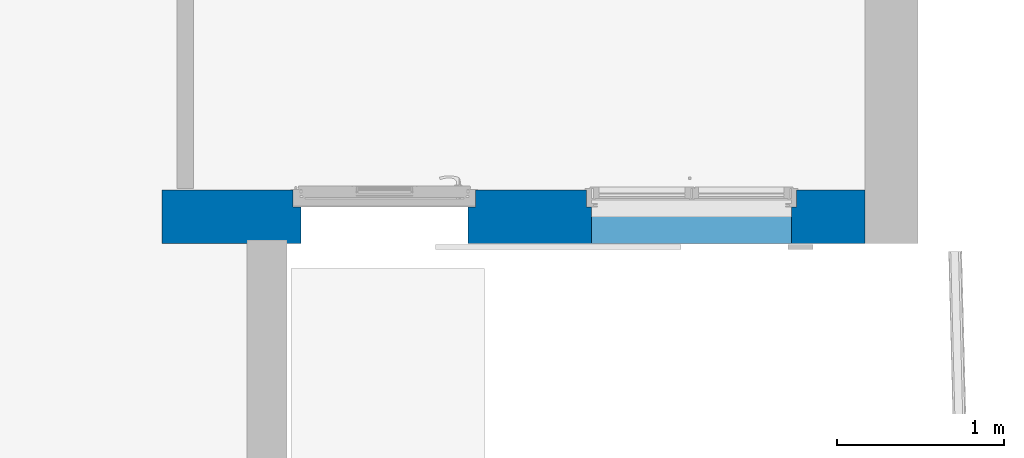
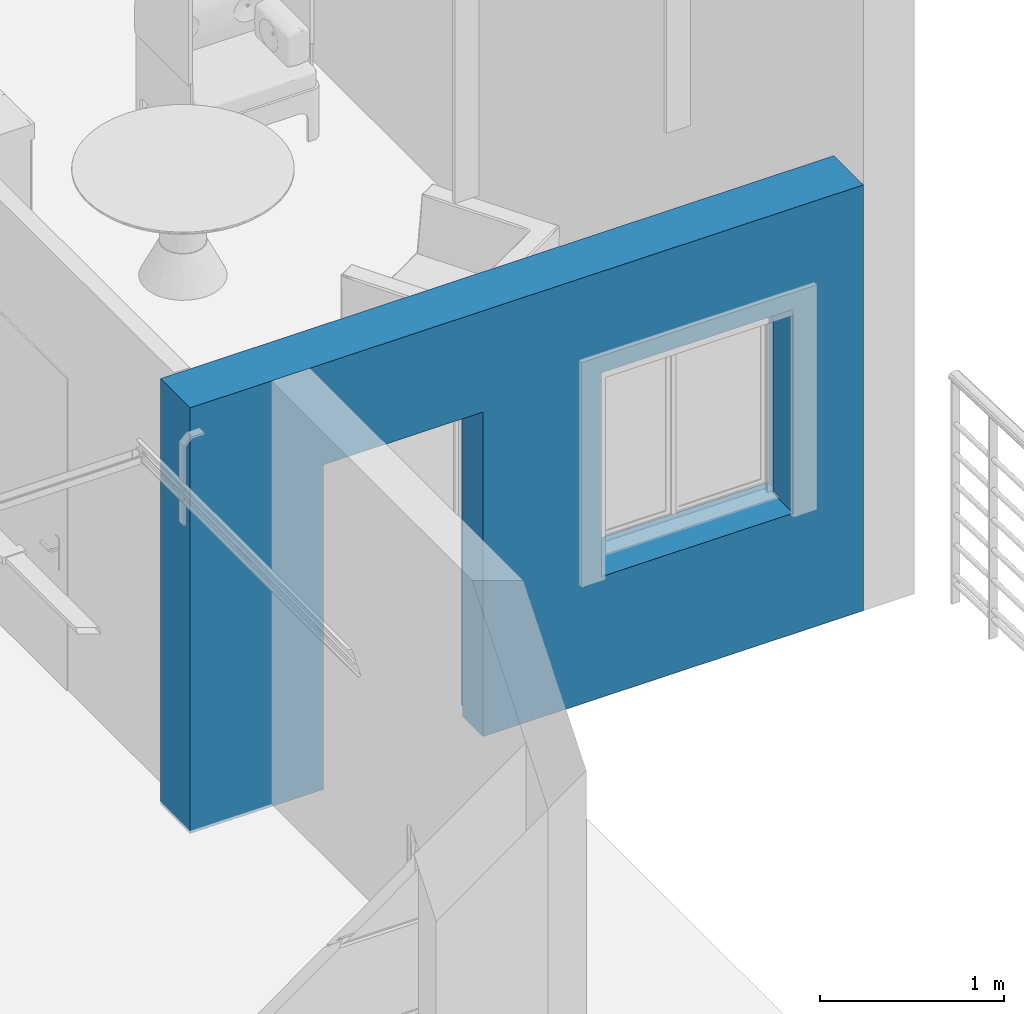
# One storey, part 20 of 30: 1 wall, 2 openings.
"""IFC2X3 building model written with IfcOpenShell, lengths in metres."""

from ifc_helpers import new_model, entity, si_unit, converted_unit, derived_unit, direction, frame, frame_2d, origin, place, context, subcontext, project, spatial, rectangle, extrude, faceted_brep, material, layer, layer_set, layer_usage, type_object, element, save


model = new_model("IFC2X3")

# Units and contexts
model_context = context("Model", 3, precision=1e-05, world=origin(), true_north=direction((6.12303176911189e-17, 1.0)))
body_context = subcontext(model_context, "Body", "Model", "MODEL_VIEW")
ifc_project = project(units=[si_unit("LENGTHUNIT", "METRE"), si_unit("AREAUNIT", "SQUARE_METRE"), si_unit("VOLUMEUNIT", "CUBIC_METRE"), converted_unit("PLANEANGLEUNIT", "DEGREE", entity("IfcRatioMeasure", 0.0174532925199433), si_unit("PLANEANGLEUNIT", "RADIAN"), dimensions=[0, 0, 0, 0, 0, 0, 0]), si_unit("MASSUNIT", "GRAM", prefix="KILO"), derived_unit("MASSDENSITYUNIT", [(si_unit("MASSUNIT", "GRAM", prefix="KILO"), 1), (si_unit("LENGTHUNIT", "METRE"), -3)]), si_unit("TIMEUNIT", "SECOND"), si_unit("FREQUENCYUNIT", "HERTZ"), si_unit("THERMODYNAMICTEMPERATUREUNIT", "DEGREE_CELSIUS"), derived_unit("THERMALTRANSMITTANCEUNIT", [(si_unit("MASSUNIT", "GRAM", prefix="KILO"), 1), (si_unit("THERMODYNAMICTEMPERATUREUNIT", "KELVIN"), -1), (si_unit("TIMEUNIT", "SECOND"), -3)]), derived_unit("VOLUMETRICFLOWRATEUNIT", [(si_unit("LENGTHUNIT", "METRE"), 3), (si_unit("TIMEUNIT", "SECOND"), -1)]), si_unit("ELECTRICCURRENTUNIT", "AMPERE"), si_unit("ELECTRICVOLTAGEUNIT", "VOLT"), si_unit("POWERUNIT", "WATT"), si_unit("FORCEUNIT", "NEWTON", prefix="KILO"), si_unit("ILLUMINANCEUNIT", "LUX"), si_unit("LUMINOUSFLUXUNIT", "LUMEN"), si_unit("LUMINOUSINTENSITYUNIT", "CANDELA"), derived_unit("USERDEFINED", [(si_unit("MASSUNIT", "GRAM", prefix="KILO"), -1), (si_unit("LENGTHUNIT", "METRE"), -2), (si_unit("TIMEUNIT", "SECOND"), 3), (si_unit("LUMINOUSFLUXUNIT", "LUMEN"), 1)]), derived_unit("LINEARVELOCITYUNIT", [(si_unit("LENGTHUNIT", "METRE"), 1), (si_unit("TIMEUNIT", "SECOND"), -1)]), si_unit("PRESSUREUNIT", "PASCAL"), derived_unit("USERDEFINED", [(si_unit("LENGTHUNIT", "METRE"), -2), (si_unit("MASSUNIT", "GRAM", prefix="KILO"), 1), (si_unit("TIMEUNIT", "SECOND"), -2)])], contexts=[model_context])

# Site, building, storey
site_placement = place(None, origin())
site = spatial("IfcSite", under=ifc_project, at=site_placement, Name="Surface", CompositionType="ELEMENT")
building_placement = place(site_placement, origin())
building = spatial("IfcBuilding", under=site, at=building_placement, CompositionType="ELEMENT")
storey_placement = place(building_placement, origin())
storey = spatial("IfcBuildingStorey", under=building, at=storey_placement, Name="Plan des fondations  Maisons 1 et 2", CompositionType="ELEMENT", Elevation=0.0)

# Wall, openings
ifc_material_1 = material(Name="Enduit blanc cassé2")
ifc_layer_1 = layer(ifc_material_1, 0.02)
ifc_material_2 = material(Name="Parpaing")
ifc_layer_2 = layer(ifc_material_2, 0.2)
ifc_material_3 = material(Name="Isolant")
ifc_layer_3 = layer(ifc_material_3, 0.1)
ifc_layer_set = layer_set([ifc_layer_1, ifc_layer_2, ifc_layer_3], Name="Mur de base:Ext. Parpaing 20 + Isolant 10 enduit blanc cassé")
ifc_layer_usage = layer_usage(ifc_layer_set, "AXIS2", "NEGATIVE", 0.16)
wall_type = type_object("IfcWallType", Name="Mur de base:Ext. Parpaing 20 + Isolant 10 enduit blanc cassé", PredefinedType="STANDARD", material=ifc_layer_set)
wall_placement = place(building_placement, frame((90.8350487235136, 84.0875239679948, 0.0), z_axis=(0.0, 0.0, 1.0), x_axis=(-1.0, 0.0, 0.0)))
wall = element("IfcWallStandardCase", 1, at=wall_placement, inside=storey, type_object=wall_type, material=ifc_layer_usage, Name="Mur de base:Ext. Parpaing 20 + Isolant 10 enduit blanc cassé", ObjectType="Mur de base:Ext. Parpaing 20 + Isolant 10 enduit blanc cassé", context=body_context, shape_type="SweptSolid", body=[
    extrude(rectangle(XDim=4.21826294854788, YDim=0.319999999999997, at=frame_2d((2.10913147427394, 5.55111512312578e-16), x_axis=(-1.0, 0.0))), origin(), (0.0, 0.0, 1.0), 2.82),
])
opening_1_placement = place(wall_placement, frame((3.43076358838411, 0.160000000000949, 0.0), z_axis=(0.0, 0.0, 1.0), x_axis=(-1.0, 0.0, 0.0)))
element("IfcOpeningElement", 2, at=opening_1_placement, cuts=wall, Name="Mur de base:Ext. Parpaing 20 + Isolant 10 enduit blanc cassé", ObjectType="Opening", context=body_context, shape_type="Brep", body=[
    faceted_brep([(0.0, 0.320000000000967, 0.0), (0.0, 0.320000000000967, 2.19749999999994), (1.09500127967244, 0.320000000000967, 2.19749999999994), (1.09500127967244, 0.320000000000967, 0.0), (0.0475006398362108, 0.0, 2.15), (0.0475006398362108, 0.0, 0.0), (1.04750063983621, 0.0, 0.0), (1.04750063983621, 0.0, 2.15), (1.04750063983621, 0.220000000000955, 2.15), (0.0475006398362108, 0.220000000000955, 2.15), (1.04750063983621, 0.220000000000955, 0.0), (0.0475006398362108, 0.220000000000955, 0.0), (0.0, 0.220000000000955, 0.0), (1.09500127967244, 0.220000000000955, 0.0), (0.0, 0.220000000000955, 2.19749999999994), (1.09500127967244, 0.220000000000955, 2.19749999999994)], [[[0, 1, 2, 3]], [[4, 5, 6, 7]], [[7, 8, 9, 4]], [[6, 10, 8, 7]], [[5, 11, 12, 0, 3, 13, 10, 6]], [[4, 9, 11, 5]], [[1, 14, 15, 2]], [[14, 12, 11, 9, 8, 10, 13, 15]], [[13, 3, 2, 15]], [[0, 12, 14, 1]]]),
])
opening_2_placement = place(wall_placement, frame((1.68000000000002, 0.46000000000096, 0.799999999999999), z_axis=(0.0, 0.0, 1.0), x_axis=(-1.0, 0.0, 0.0)))
element("IfcOpeningElement", 3, at=opening_2_placement, cuts=wall, Name="Mur de base:Ext. Parpaing 20 + Isolant 10 enduit blanc cassé", ObjectType="Opening", context=body_context, shape_type="Brep", body=[
    faceted_brep([(0.0400000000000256, 0.720000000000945, 1.35), (0.0400000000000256, 0.620000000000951, 1.35), (1.24000000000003, 0.620000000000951, 1.35), (1.24000000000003, 0.720000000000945, 1.35), (0.0400000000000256, 0.0, 0.0), (0.0400000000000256, 0.520000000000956, 0.0), (0.0100000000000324, 0.520000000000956, 0.0), (0.0100000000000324, 0.620000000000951, 0.0), (0.0400000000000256, 0.620000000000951, 0.0), (0.0400000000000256, 0.720000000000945, 0.0), (1.24000000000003, 0.720000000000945, 0.0), (1.24000000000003, 0.620000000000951, 0.0), (1.27000000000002, 0.620000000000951, 0.0), (1.27000000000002, 0.520000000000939, 0.0), (1.24000000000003, 0.520000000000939, 0.0), (1.24000000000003, 0.0, 0.0), (0.0400000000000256, 0.0, 1.35), (1.24000000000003, 0.0, 1.35), (0.0400000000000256, 0.520000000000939, 1.35), (0.0100000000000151, 0.620000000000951, 1.38), (0.0, 0.620000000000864, 1.38000000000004), (0.0, 0.620000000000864, 1.59000000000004), (1.28000000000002, 0.620000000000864, 1.59000000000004), (1.28000000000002, 0.620000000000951, 1.38000000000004), (1.27000000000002, 0.620000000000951, 1.38), (1.27000000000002, 0.520000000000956, 1.38), (1.28000000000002, 0.520000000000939, 1.38000000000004), (1.28000000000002, 0.520000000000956, 1.59000000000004), (0.0, 0.520000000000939, 1.59000000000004), (0.0, 0.520000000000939, 1.38000000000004), (0.0100000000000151, 0.520000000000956, 1.38), (1.24000000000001, 0.520000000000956, 1.35)], [[[0, 1, 2, 3]], [[4, 5, 6, 7, 8, 9, 10, 11, 12, 13, 14, 15]], [[16, 4, 15, 17]], [[3, 2, 11, 10]], [[3, 10, 9, 0]], [[16, 18, 5, 4]], [[11, 2, 1, 8, 7, 19, 20, 21, 22, 23, 24, 12]], [[12, 24, 25, 13]], [[13, 25, 26, 27, 28, 29, 30, 6, 5, 18, 31, 14]], [[7, 6, 30, 19]], [[26, 23, 22, 27]], [[29, 28, 21, 20]], [[26, 25, 24, 23]], [[22, 21, 28, 27]], [[20, 19, 30, 29]], [[9, 8, 1, 0]], [[15, 14, 31, 17]], [[17, 31, 18, 16]]]),
])

save(model, "model.ifc")
